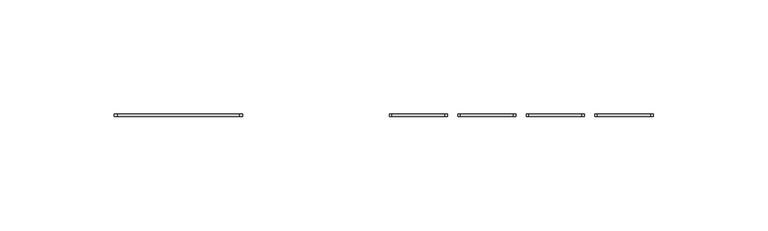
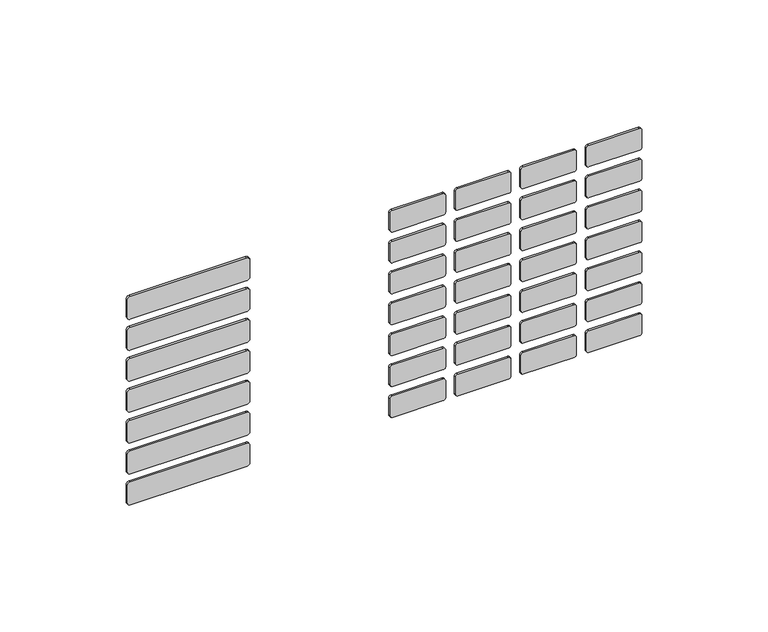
"""IFC4 building model written with IfcOpenShell, lengths in millimetres: alarm geometry, ППД 01_тип модель : ППД 01."""

from ifc_helpers import new_model, si_unit, point, frame, frame_2d, origin, place, context, project, spatial, polyline, circle_curve, trimmed, segment, composite_curve, outline, extrude, source, transform, mapped, element, save


def alarm_17b44d74(model_context):
    return source(origin(), model_context, "Body", "SweptSolid", [
        extrude(outline(composite_curve([segment(polyline([(-157.0058728, -61.8547243), (-148.667464, -61.8547243)]), True, "CONTINUOUS"), segment(trimmed(circle_curve(frame_2d((-148.7005577, -63.2194281)), 1.365105), [point((-148.667464, -61.8547243))], [point((-147.3366684, -63.2770283))], False, "CARTESIAN"), True, "CONTINUOUS"), segment(polyline([(-147.3366684, -63.2770283), (-147.3366684, -116.5477186)]), True, "CONTINUOUS"), segment(trimmed(circle_curve(frame_2d((-148.7005577, -116.6053188)), 1.365105), [point((-147.3366684, -116.5477186))], [point((-148.667464, -117.9700226))], False, "CARTESIAN"), True, "CONTINUOUS"), segment(polyline([(-148.667464, -117.9700226), (-157.0058728, -117.9700226)]), True, "CONTINUOUS"), segment(trimmed(circle_curve(frame_2d((-156.9247494, -116.5603792)), 1.4119758), [point((-157.0058728, -117.9700226))], [point((-158.3366684, -116.5477186))], False, "CARTESIAN"), True, "CONTINUOUS"), segment(polyline([(-158.3366684, -116.5477186), (-158.3366684, -63.2770283)]), True, "CONTINUOUS"), segment(trimmed(circle_curve(frame_2d((-156.9727791, -63.2194281)), 1.365105), [point((-158.3366684, -63.2770283))], [point((-157.0058728, -61.8547243))], False, "CARTESIAN"), True, "CONTINUOUS")], self_intersect=False)), frame((0.0, -37.0, 0.0), z_axis=(0.0, 1.0, 0.0), x_axis=(0.0, 0.0, 1.0)), (0.0, 0.0, 1.0), 1.0),
        extrude(outline(composite_curve([segment(polyline([(-157.0058728, 27.7612757), (-148.9222341, 27.7612757)]), True, "CONTINUOUS"), segment(trimmed(circle_curve(frame_2d((-148.8394707, 26.5586381)), 1.205482), [point((-148.9222341, 27.7612757))], [point((-147.6366684, 26.6389717))], False, "CARTESIAN"), True, "CONTINUOUS"), segment(polyline([(-147.6366684, 26.6389717), (-147.6366684, 3.4452053)]), True, "CONTINUOUS"), segment(trimmed(circle_curve(frame_2d((-148.8038777, 3.5226789)), 1.1697777), [point((-147.6366684, 3.4452053))], [point((-148.6641551, 2.3612757))], False, "CARTESIAN"), True, "CONTINUOUS"), segment(polyline([(-148.6641551, 2.3612757), (-157.0058728, 2.3612757)]), True, "CONTINUOUS"), segment(trimmed(circle_curve(frame_2d((-156.9015093, 3.4916561)), 1.1351879), [point((-157.0058728, 2.3612757))], [point((-158.0366684, 3.4835797))], False, "CARTESIAN"), True, "CONTINUOUS"), segment(polyline([(-158.0366684, 3.4835797), (-158.0366684, 26.77742)]), True, "CONTINUOUS"), segment(trimmed(circle_curve(frame_2d((-156.9272646, 26.6470018)), 1.1170432), [point((-158.0366684, 26.77742))], [point((-157.0058728, 27.7612757))], False, "CARTESIAN"), True, "CONTINUOUS")], self_intersect=False)), frame((0.0, -37.0, 0.0), z_axis=(0.0, 1.0, 0.0), x_axis=(0.0, 0.0, 1.0)), (0.0, 0.0, 1.0), 1.0),
        extrude(outline(composite_curve([segment(polyline([(-157.0058728, 57.7332757), (-148.9222341, 57.7332757)]), True, "CONTINUOUS"), segment(trimmed(circle_curve(frame_2d((-148.8394707, 56.5306381)), 1.205482), [point((-148.9222341, 57.7332757))], [point((-147.6366684, 56.6109717))], False, "CARTESIAN"), True, "CONTINUOUS"), segment(polyline([(-147.6366684, 56.6109717), (-147.6366684, 33.4172053)]), True, "CONTINUOUS"), segment(trimmed(circle_curve(frame_2d((-148.8038777, 33.4946789)), 1.1697777), [point((-147.6366684, 33.4172053))], [point((-148.6641551, 32.3332757))], False, "CARTESIAN"), True, "CONTINUOUS"), segment(polyline([(-148.6641551, 32.3332757), (-157.0058728, 32.3332757)]), True, "CONTINUOUS"), segment(trimmed(circle_curve(frame_2d((-156.9015093, 33.4636561)), 1.1351879), [point((-157.0058728, 32.3332757))], [point((-158.0366684, 33.4555797))], False, "CARTESIAN"), True, "CONTINUOUS"), segment(polyline([(-158.0366684, 33.4555797), (-158.0366684, 56.74942)]), True, "CONTINUOUS"), segment(trimmed(circle_curve(frame_2d((-156.9272646, 56.6190018)), 1.1170432), [point((-158.0366684, 56.74942))], [point((-157.0058728, 57.7332757))], False, "CARTESIAN"), True, "CONTINUOUS")], self_intersect=False)), frame((0.0, -37.0, 0.0), z_axis=(0.0, 1.0, 0.0), x_axis=(0.0, 0.0, 1.0)), (0.0, 0.0, 1.0), 1.0),
        extrude(outline(composite_curve([segment(polyline([(-157.0058728, 87.7052757), (-148.9222341, 87.7052757)]), True, "CONTINUOUS"), segment(trimmed(circle_curve(frame_2d((-148.8394707, 86.5026381)), 1.205482), [point((-148.9222341, 87.7052757))], [point((-147.6366684, 86.5829717))], False, "CARTESIAN"), True, "CONTINUOUS"), segment(polyline([(-147.6366684, 86.5829717), (-147.6366684, 63.3892053)]), True, "CONTINUOUS"), segment(trimmed(circle_curve(frame_2d((-148.8038777, 63.4666789)), 1.1697777), [point((-147.6366684, 63.3892053))], [point((-148.6641551, 62.3052757))], False, "CARTESIAN"), True, "CONTINUOUS"), segment(polyline([(-148.6641551, 62.3052757), (-157.0058728, 62.3052757)]), True, "CONTINUOUS"), segment(trimmed(circle_curve(frame_2d((-156.9015093, 63.4356561)), 1.1351879), [point((-157.0058728, 62.3052757))], [point((-158.0366684, 63.4275797))], False, "CARTESIAN"), True, "CONTINUOUS"), segment(polyline([(-158.0366684, 63.4275797), (-158.0366684, 86.72142)]), True, "CONTINUOUS"), segment(trimmed(circle_curve(frame_2d((-156.9272646, 86.5910018)), 1.1170432), [point((-158.0366684, 86.72142))], [point((-157.0058728, 87.7052757))], False, "CARTESIAN"), True, "CONTINUOUS")], self_intersect=False)), frame((0.0, -37.0, 0.0), z_axis=(0.0, 1.0, 0.0), x_axis=(0.0, 0.0, 1.0)), (0.0, 0.0, 1.0), 1.0),
        extrude(outline(composite_curve([segment(polyline([(-148.6646868, 92.3156501), (-157.0064045, 92.3156501)]), True, "CONTINUOUS"), segment(trimmed(circle_curve(frame_2d((-156.902041, 93.4460304)), 1.1351879), [point((-157.0064045, 92.3156501))], [point((-158.0372001, 93.4379541))], False, "CARTESIAN"), True, "CONTINUOUS"), segment(polyline([(-158.0372001, 93.4379541), (-158.0372001, 116.7317943)]), True, "CONTINUOUS"), segment(trimmed(circle_curve(frame_2d((-156.9277964, 116.6013762)), 1.1170432), [point((-158.0372001, 116.7317943))], [point((-157.0064045, 117.7156501))], False, "CARTESIAN"), True, "CONTINUOUS"), segment(polyline([(-157.0064045, 117.7156501), (-148.9227659, 117.7156501)]), True, "CONTINUOUS"), segment(trimmed(circle_curve(frame_2d((-148.8400025, 116.5130125)), 1.205482), [point((-148.9227659, 117.7156501))], [point((-147.6372001, 116.5933461))], False, "CARTESIAN"), True, "CONTINUOUS"), segment(polyline([(-147.6372001, 116.5933461), (-147.6372001, 93.3995797)]), True, "CONTINUOUS"), segment(trimmed(circle_curve(frame_2d((-148.8044095, 93.4770533)), 1.1697777), [point((-147.6372001, 93.3995797))], [point((-148.6646868, 92.3156501))], False, "CARTESIAN"), True, "CONTINUOUS")], self_intersect=False)), frame((0.0, -37.0, 0.0), z_axis=(0.0, 1.0, 0.0), x_axis=(0.0, 0.0, 1.0)), (0.0, 0.0, 1.0), 1.0),
        extrude(outline(composite_curve([segment(polyline([(-142.0198728, -61.8547243), (-133.681464, -61.8547243)]), True, "CONTINUOUS"), segment(trimmed(circle_curve(frame_2d((-133.7145577, -63.2194281)), 1.365105), [point((-133.681464, -61.8547243))], [point((-132.3506684, -63.2770283))], False, "CARTESIAN"), True, "CONTINUOUS"), segment(polyline([(-132.3506684, -63.2770283), (-132.3506684, -116.5477186)]), True, "CONTINUOUS"), segment(trimmed(circle_curve(frame_2d((-133.7145577, -116.6053188)), 1.365105), [point((-132.3506684, -116.5477186))], [point((-133.681464, -117.9700226))], False, "CARTESIAN"), True, "CONTINUOUS"), segment(polyline([(-133.681464, -117.9700226), (-142.0198728, -117.9700226)]), True, "CONTINUOUS"), segment(trimmed(circle_curve(frame_2d((-141.9387494, -116.5603792)), 1.4119758), [point((-142.0198728, -117.9700226))], [point((-143.3506684, -116.5477186))], False, "CARTESIAN"), True, "CONTINUOUS"), segment(polyline([(-143.3506684, -116.5477186), (-143.3506684, -63.2770283)]), True, "CONTINUOUS"), segment(trimmed(circle_curve(frame_2d((-141.9867791, -63.2194281)), 1.365105), [point((-143.3506684, -63.2770283))], [point((-142.0198728, -61.8547243))], False, "CARTESIAN"), True, "CONTINUOUS")], self_intersect=False)), frame((0.0, -37.0, 0.0), z_axis=(0.0, 1.0, 0.0), x_axis=(0.0, 0.0, 1.0)), (0.0, 0.0, 1.0), 1.0),
        extrude(outline(composite_curve([segment(polyline([(-142.0198728, 27.7612757), (-133.9362341, 27.7612757)]), True, "CONTINUOUS"), segment(trimmed(circle_curve(frame_2d((-133.8534707, 26.5586381)), 1.205482), [point((-133.9362341, 27.7612757))], [point((-132.6506684, 26.6389717))], False, "CARTESIAN"), True, "CONTINUOUS"), segment(polyline([(-132.6506684, 26.6389717), (-132.6506684, 3.4452053)]), True, "CONTINUOUS"), segment(trimmed(circle_curve(frame_2d((-133.8178777, 3.5226789)), 1.1697777), [point((-132.6506684, 3.4452053))], [point((-133.6781551, 2.3612757))], False, "CARTESIAN"), True, "CONTINUOUS"), segment(polyline([(-133.6781551, 2.3612757), (-142.0198728, 2.3612757)]), True, "CONTINUOUS"), segment(trimmed(circle_curve(frame_2d((-141.9155093, 3.4916561)), 1.1351879), [point((-142.0198728, 2.3612757))], [point((-143.0506684, 3.4835797))], False, "CARTESIAN"), True, "CONTINUOUS"), segment(polyline([(-143.0506684, 3.4835797), (-143.0506684, 26.77742)]), True, "CONTINUOUS"), segment(trimmed(circle_curve(frame_2d((-141.9412646, 26.6470018)), 1.1170432), [point((-143.0506684, 26.77742))], [point((-142.0198728, 27.7612757))], False, "CARTESIAN"), True, "CONTINUOUS")], self_intersect=False)), frame((0.0, -37.0, 0.0), z_axis=(0.0, 1.0, 0.0), x_axis=(0.0, 0.0, 1.0)), (0.0, 0.0, 1.0), 1.0),
        extrude(outline(composite_curve([segment(polyline([(-142.0198728, 57.7332757), (-133.9362341, 57.7332757)]), True, "CONTINUOUS"), segment(trimmed(circle_curve(frame_2d((-133.8534707, 56.5306381)), 1.205482), [point((-133.9362341, 57.7332757))], [point((-132.6506684, 56.6109717))], False, "CARTESIAN"), True, "CONTINUOUS"), segment(polyline([(-132.6506684, 56.6109717), (-132.6506684, 33.4172053)]), True, "CONTINUOUS"), segment(trimmed(circle_curve(frame_2d((-133.8178777, 33.4946789)), 1.1697777), [point((-132.6506684, 33.4172053))], [point((-133.6781551, 32.3332757))], False, "CARTESIAN"), True, "CONTINUOUS"), segment(polyline([(-133.6781551, 32.3332757), (-142.0198728, 32.3332757)]), True, "CONTINUOUS"), segment(trimmed(circle_curve(frame_2d((-141.9155093, 33.4636561)), 1.1351879), [point((-142.0198728, 32.3332757))], [point((-143.0506684, 33.4555797))], False, "CARTESIAN"), True, "CONTINUOUS"), segment(polyline([(-143.0506684, 33.4555797), (-143.0506684, 56.74942)]), True, "CONTINUOUS"), segment(trimmed(circle_curve(frame_2d((-141.9412646, 56.6190018)), 1.1170432), [point((-143.0506684, 56.74942))], [point((-142.0198728, 57.7332757))], False, "CARTESIAN"), True, "CONTINUOUS")], self_intersect=False)), frame((0.0, -37.0, 0.0), z_axis=(0.0, 1.0, 0.0), x_axis=(0.0, 0.0, 1.0)), (0.0, 0.0, 1.0), 1.0),
        extrude(outline(composite_curve([segment(polyline([(-142.0198728, 87.7052757), (-133.9362341, 87.7052757)]), True, "CONTINUOUS"), segment(trimmed(circle_curve(frame_2d((-133.8534707, 86.5026381)), 1.205482), [point((-133.9362341, 87.7052757))], [point((-132.6506684, 86.5829717))], False, "CARTESIAN"), True, "CONTINUOUS"), segment(polyline([(-132.6506684, 86.5829717), (-132.6506684, 63.3892053)]), True, "CONTINUOUS"), segment(trimmed(circle_curve(frame_2d((-133.8178777, 63.4666789)), 1.1697777), [point((-132.6506684, 63.3892053))], [point((-133.6781551, 62.3052757))], False, "CARTESIAN"), True, "CONTINUOUS"), segment(polyline([(-133.6781551, 62.3052757), (-142.0198728, 62.3052757)]), True, "CONTINUOUS"), segment(trimmed(circle_curve(frame_2d((-141.9155093, 63.4356561)), 1.1351879), [point((-142.0198728, 62.3052757))], [point((-143.0506684, 63.4275797))], False, "CARTESIAN"), True, "CONTINUOUS"), segment(polyline([(-143.0506684, 63.4275797), (-143.0506684, 86.72142)]), True, "CONTINUOUS"), segment(trimmed(circle_curve(frame_2d((-141.9412646, 86.5910018)), 1.1170432), [point((-143.0506684, 86.72142))], [point((-142.0198728, 87.7052757))], False, "CARTESIAN"), True, "CONTINUOUS")], self_intersect=False)), frame((0.0, -37.0, 0.0), z_axis=(0.0, 1.0, 0.0), x_axis=(0.0, 0.0, 1.0)), (0.0, 0.0, 1.0), 1.0),
        extrude(outline(composite_curve([segment(polyline([(-133.6786868, 92.3156501), (-142.0204045, 92.3156501)]), True, "CONTINUOUS"), segment(trimmed(circle_curve(frame_2d((-141.916041, 93.4460304)), 1.1351879), [point((-142.0204045, 92.3156501))], [point((-143.0512001, 93.4379541))], False, "CARTESIAN"), True, "CONTINUOUS"), segment(polyline([(-143.0512001, 93.4379541), (-143.0512001, 116.7317943)]), True, "CONTINUOUS"), segment(trimmed(circle_curve(frame_2d((-141.9417964, 116.6013762)), 1.1170432), [point((-143.0512001, 116.7317943))], [point((-142.0204045, 117.7156501))], False, "CARTESIAN"), True, "CONTINUOUS"), segment(polyline([(-142.0204045, 117.7156501), (-133.9367659, 117.7156501)]), True, "CONTINUOUS"), segment(trimmed(circle_curve(frame_2d((-133.8540025, 116.5130125)), 1.205482), [point((-133.9367659, 117.7156501))], [point((-132.6512001, 116.5933461))], False, "CARTESIAN"), True, "CONTINUOUS"), segment(polyline([(-132.6512001, 116.5933461), (-132.6512001, 93.3995797)]), True, "CONTINUOUS"), segment(trimmed(circle_curve(frame_2d((-133.8184095, 93.4770533)), 1.1697777), [point((-132.6512001, 93.3995797))], [point((-133.6786868, 92.3156501))], False, "CARTESIAN"), True, "CONTINUOUS")], self_intersect=False)), frame((0.0, -37.0, 0.0), z_axis=(0.0, 1.0, 0.0), x_axis=(0.0, 0.0, 1.0)), (0.0, 0.0, 1.0), 1.0),
        extrude(outline(composite_curve([segment(polyline([(-127.0338728, -61.8547243), (-118.695464, -61.8547243)]), True, "CONTINUOUS"), segment(trimmed(circle_curve(frame_2d((-118.7285577, -63.2194281)), 1.365105), [point((-118.695464, -61.8547243))], [point((-117.3646684, -63.2770283))], False, "CARTESIAN"), True, "CONTINUOUS"), segment(polyline([(-117.3646684, -63.2770283), (-117.3646684, -116.5477186)]), True, "CONTINUOUS"), segment(trimmed(circle_curve(frame_2d((-118.7285577, -116.6053188)), 1.365105), [point((-117.3646684, -116.5477186))], [point((-118.695464, -117.9700226))], False, "CARTESIAN"), True, "CONTINUOUS"), segment(polyline([(-118.695464, -117.9700226), (-127.0338728, -117.9700226)]), True, "CONTINUOUS"), segment(trimmed(circle_curve(frame_2d((-126.9527494, -116.5603792)), 1.4119758), [point((-127.0338728, -117.9700226))], [point((-128.3646684, -116.5477186))], False, "CARTESIAN"), True, "CONTINUOUS"), segment(polyline([(-128.3646684, -116.5477186), (-128.3646684, -63.2770283)]), True, "CONTINUOUS"), segment(trimmed(circle_curve(frame_2d((-127.0007791, -63.2194281)), 1.365105), [point((-128.3646684, -63.2770283))], [point((-127.0338728, -61.8547243))], False, "CARTESIAN"), True, "CONTINUOUS")], self_intersect=False)), frame((0.0, -37.0, 0.0), z_axis=(0.0, 1.0, 0.0), x_axis=(0.0, 0.0, 1.0)), (0.0, 0.0, 1.0), 1.0),
        extrude(outline(composite_curve([segment(polyline([(-127.0338728, 27.7612757), (-118.9502341, 27.7612757)]), True, "CONTINUOUS"), segment(trimmed(circle_curve(frame_2d((-118.8674707, 26.5586381)), 1.205482), [point((-118.9502341, 27.7612757))], [point((-117.6646684, 26.6389717))], False, "CARTESIAN"), True, "CONTINUOUS"), segment(polyline([(-117.6646684, 26.6389717), (-117.6646684, 3.4452053)]), True, "CONTINUOUS"), segment(trimmed(circle_curve(frame_2d((-118.8318777, 3.5226789)), 1.1697777), [point((-117.6646684, 3.4452053))], [point((-118.6921551, 2.3612757))], False, "CARTESIAN"), True, "CONTINUOUS"), segment(polyline([(-118.6921551, 2.3612757), (-127.0338728, 2.3612757)]), True, "CONTINUOUS"), segment(trimmed(circle_curve(frame_2d((-126.9295093, 3.4916561)), 1.1351879), [point((-127.0338728, 2.3612757))], [point((-128.0646684, 3.4835797))], False, "CARTESIAN"), True, "CONTINUOUS"), segment(polyline([(-128.0646684, 3.4835797), (-128.0646684, 26.77742)]), True, "CONTINUOUS"), segment(trimmed(circle_curve(frame_2d((-126.9552646, 26.6470018)), 1.1170432), [point((-128.0646684, 26.77742))], [point((-127.0338728, 27.7612757))], False, "CARTESIAN"), True, "CONTINUOUS")], self_intersect=False)), frame((0.0, -37.0, 0.0), z_axis=(0.0, 1.0, 0.0), x_axis=(0.0, 0.0, 1.0)), (0.0, 0.0, 1.0), 1.0),
        extrude(outline(composite_curve([segment(polyline([(-127.0338728, 57.7332757), (-118.9502341, 57.7332757)]), True, "CONTINUOUS"), segment(trimmed(circle_curve(frame_2d((-118.8674707, 56.5306381)), 1.205482), [point((-118.9502341, 57.7332757))], [point((-117.6646684, 56.6109717))], False, "CARTESIAN"), True, "CONTINUOUS"), segment(polyline([(-117.6646684, 56.6109717), (-117.6646684, 33.4172053)]), True, "CONTINUOUS"), segment(trimmed(circle_curve(frame_2d((-118.8318777, 33.4946789)), 1.1697777), [point((-117.6646684, 33.4172053))], [point((-118.6921551, 32.3332757))], False, "CARTESIAN"), True, "CONTINUOUS"), segment(polyline([(-118.6921551, 32.3332757), (-127.0338728, 32.3332757)]), True, "CONTINUOUS"), segment(trimmed(circle_curve(frame_2d((-126.9295093, 33.4636561)), 1.1351879), [point((-127.0338728, 32.3332757))], [point((-128.0646684, 33.4555797))], False, "CARTESIAN"), True, "CONTINUOUS"), segment(polyline([(-128.0646684, 33.4555797), (-128.0646684, 56.74942)]), True, "CONTINUOUS"), segment(trimmed(circle_curve(frame_2d((-126.9552646, 56.6190018)), 1.1170432), [point((-128.0646684, 56.74942))], [point((-127.0338728, 57.7332757))], False, "CARTESIAN"), True, "CONTINUOUS")], self_intersect=False)), frame((0.0, -37.0, 0.0), z_axis=(0.0, 1.0, 0.0), x_axis=(0.0, 0.0, 1.0)), (0.0, 0.0, 1.0), 1.0),
        extrude(outline(composite_curve([segment(polyline([(-127.0338728, 87.7052757), (-118.9502341, 87.7052757)]), True, "CONTINUOUS"), segment(trimmed(circle_curve(frame_2d((-118.8674707, 86.5026381)), 1.205482), [point((-118.9502341, 87.7052757))], [point((-117.6646684, 86.5829717))], False, "CARTESIAN"), True, "CONTINUOUS"), segment(polyline([(-117.6646684, 86.5829717), (-117.6646684, 63.3892053)]), True, "CONTINUOUS"), segment(trimmed(circle_curve(frame_2d((-118.8318777, 63.4666789)), 1.1697777), [point((-117.6646684, 63.3892053))], [point((-118.6921551, 62.3052757))], False, "CARTESIAN"), True, "CONTINUOUS"), segment(polyline([(-118.6921551, 62.3052757), (-127.0338728, 62.3052757)]), True, "CONTINUOUS"), segment(trimmed(circle_curve(frame_2d((-126.9295093, 63.4356561)), 1.1351879), [point((-127.0338728, 62.3052757))], [point((-128.0646684, 63.4275797))], False, "CARTESIAN"), True, "CONTINUOUS"), segment(polyline([(-128.0646684, 63.4275797), (-128.0646684, 86.72142)]), True, "CONTINUOUS"), segment(trimmed(circle_curve(frame_2d((-126.9552646, 86.5910018)), 1.1170432), [point((-128.0646684, 86.72142))], [point((-127.0338728, 87.7052757))], False, "CARTESIAN"), True, "CONTINUOUS")], self_intersect=False)), frame((0.0, -37.0, 0.0), z_axis=(0.0, 1.0, 0.0), x_axis=(0.0, 0.0, 1.0)), (0.0, 0.0, 1.0), 1.0),
        extrude(outline(composite_curve([segment(polyline([(-118.6926868, 92.3156501), (-127.0344045, 92.3156501)]), True, "CONTINUOUS"), segment(trimmed(circle_curve(frame_2d((-126.930041, 93.4460304)), 1.1351879), [point((-127.0344045, 92.3156501))], [point((-128.0652001, 93.4379541))], False, "CARTESIAN"), True, "CONTINUOUS"), segment(polyline([(-128.0652001, 93.4379541), (-128.0652001, 116.7317943)]), True, "CONTINUOUS"), segment(trimmed(circle_curve(frame_2d((-126.9557964, 116.6013762)), 1.1170432), [point((-128.0652001, 116.7317943))], [point((-127.0344045, 117.7156501))], False, "CARTESIAN"), True, "CONTINUOUS"), segment(polyline([(-127.0344045, 117.7156501), (-118.9507659, 117.7156501)]), True, "CONTINUOUS"), segment(trimmed(circle_curve(frame_2d((-118.8680025, 116.5130125)), 1.205482), [point((-118.9507659, 117.7156501))], [point((-117.6652001, 116.5933461))], False, "CARTESIAN"), True, "CONTINUOUS"), segment(polyline([(-117.6652001, 116.5933461), (-117.6652001, 93.3995797)]), True, "CONTINUOUS"), segment(trimmed(circle_curve(frame_2d((-118.8324095, 93.4770533)), 1.1697777), [point((-117.6652001, 93.3995797))], [point((-118.6926868, 92.3156501))], False, "CARTESIAN"), True, "CONTINUOUS")], self_intersect=False)), frame((0.0, -37.0, 0.0), z_axis=(0.0, 1.0, 0.0), x_axis=(0.0, 0.0, 1.0)), (0.0, 0.0, 1.0), 1.0),
        extrude(outline(composite_curve([segment(polyline([(-112.0478728, -61.8547243), (-103.709464, -61.8547243)]), True, "CONTINUOUS"), segment(trimmed(circle_curve(frame_2d((-103.7425577, -63.2194281)), 1.365105), [point((-103.709464, -61.8547243))], [point((-102.3786684, -63.2770283))], False, "CARTESIAN"), True, "CONTINUOUS"), segment(polyline([(-102.3786684, -63.2770283), (-102.3786684, -116.5477186)]), True, "CONTINUOUS"), segment(trimmed(circle_curve(frame_2d((-103.7425577, -116.6053188)), 1.365105), [point((-102.3786684, -116.5477186))], [point((-103.709464, -117.9700226))], False, "CARTESIAN"), True, "CONTINUOUS"), segment(polyline([(-103.709464, -117.9700226), (-112.0478728, -117.9700226)]), True, "CONTINUOUS"), segment(trimmed(circle_curve(frame_2d((-111.9667494, -116.5603792)), 1.4119758), [point((-112.0478728, -117.9700226))], [point((-113.3786684, -116.5477186))], False, "CARTESIAN"), True, "CONTINUOUS"), segment(polyline([(-113.3786684, -116.5477186), (-113.3786684, -63.2770283)]), True, "CONTINUOUS"), segment(trimmed(circle_curve(frame_2d((-112.0147791, -63.2194281)), 1.365105), [point((-113.3786684, -63.2770283))], [point((-112.0478728, -61.8547243))], False, "CARTESIAN"), True, "CONTINUOUS")], self_intersect=False)), frame((0.0, -37.0, 0.0), z_axis=(0.0, 1.0, 0.0), x_axis=(0.0, 0.0, 1.0)), (0.0, 0.0, 1.0), 1.0),
        extrude(outline(composite_curve([segment(polyline([(-112.0478728, 27.7612757), (-103.9642341, 27.7612757)]), True, "CONTINUOUS"), segment(trimmed(circle_curve(frame_2d((-103.8814707, 26.5586381)), 1.205482), [point((-103.9642341, 27.7612757))], [point((-102.6786684, 26.6389717))], False, "CARTESIAN"), True, "CONTINUOUS"), segment(polyline([(-102.6786684, 26.6389717), (-102.6786684, 3.4452053)]), True, "CONTINUOUS"), segment(trimmed(circle_curve(frame_2d((-103.8458777, 3.5226789)), 1.1697777), [point((-102.6786684, 3.4452053))], [point((-103.7061551, 2.3612757))], False, "CARTESIAN"), True, "CONTINUOUS"), segment(polyline([(-103.7061551, 2.3612757), (-112.0478728, 2.3612757)]), True, "CONTINUOUS"), segment(trimmed(circle_curve(frame_2d((-111.9435093, 3.4916561)), 1.1351879), [point((-112.0478728, 2.3612757))], [point((-113.0786684, 3.4835797))], False, "CARTESIAN"), True, "CONTINUOUS"), segment(polyline([(-113.0786684, 3.4835797), (-113.0786684, 26.77742)]), True, "CONTINUOUS"), segment(trimmed(circle_curve(frame_2d((-111.9692646, 26.6470018)), 1.1170432), [point((-113.0786684, 26.77742))], [point((-112.0478728, 27.7612757))], False, "CARTESIAN"), True, "CONTINUOUS")], self_intersect=False)), frame((0.0, -37.0, 0.0), z_axis=(0.0, 1.0, 0.0), x_axis=(0.0, 0.0, 1.0)), (0.0, 0.0, 1.0), 1.0),
        extrude(outline(composite_curve([segment(polyline([(-112.0478728, 57.7332757), (-103.9642341, 57.7332757)]), True, "CONTINUOUS"), segment(trimmed(circle_curve(frame_2d((-103.8814707, 56.5306381)), 1.205482), [point((-103.9642341, 57.7332757))], [point((-102.6786684, 56.6109717))], False, "CARTESIAN"), True, "CONTINUOUS"), segment(polyline([(-102.6786684, 56.6109717), (-102.6786684, 33.4172053)]), True, "CONTINUOUS"), segment(trimmed(circle_curve(frame_2d((-103.8458777, 33.4946789)), 1.1697777), [point((-102.6786684, 33.4172053))], [point((-103.7061551, 32.3332757))], False, "CARTESIAN"), True, "CONTINUOUS"), segment(polyline([(-103.7061551, 32.3332757), (-112.0478728, 32.3332757)]), True, "CONTINUOUS"), segment(trimmed(circle_curve(frame_2d((-111.9435093, 33.4636561)), 1.1351879), [point((-112.0478728, 32.3332757))], [point((-113.0786684, 33.4555797))], False, "CARTESIAN"), True, "CONTINUOUS"), segment(polyline([(-113.0786684, 33.4555797), (-113.0786684, 56.74942)]), True, "CONTINUOUS"), segment(trimmed(circle_curve(frame_2d((-111.9692646, 56.6190018)), 1.1170432), [point((-113.0786684, 56.74942))], [point((-112.0478728, 57.7332757))], False, "CARTESIAN"), True, "CONTINUOUS")], self_intersect=False)), frame((0.0, -37.0, 0.0), z_axis=(0.0, 1.0, 0.0), x_axis=(0.0, 0.0, 1.0)), (0.0, 0.0, 1.0), 1.0),
        extrude(outline(composite_curve([segment(polyline([(-112.0478728, 87.7052757), (-103.9642341, 87.7052757)]), True, "CONTINUOUS"), segment(trimmed(circle_curve(frame_2d((-103.8814707, 86.5026381)), 1.205482), [point((-103.9642341, 87.7052757))], [point((-102.6786684, 86.5829717))], False, "CARTESIAN"), True, "CONTINUOUS"), segment(polyline([(-102.6786684, 86.5829717), (-102.6786684, 63.3892053)]), True, "CONTINUOUS"), segment(trimmed(circle_curve(frame_2d((-103.8458777, 63.4666789)), 1.1697777), [point((-102.6786684, 63.3892053))], [point((-103.7061551, 62.3052757))], False, "CARTESIAN"), True, "CONTINUOUS"), segment(polyline([(-103.7061551, 62.3052757), (-112.0478728, 62.3052757)]), True, "CONTINUOUS"), segment(trimmed(circle_curve(frame_2d((-111.9435093, 63.4356561)), 1.1351879), [point((-112.0478728, 62.3052757))], [point((-113.0786684, 63.4275797))], False, "CARTESIAN"), True, "CONTINUOUS"), segment(polyline([(-113.0786684, 63.4275797), (-113.0786684, 86.72142)]), True, "CONTINUOUS"), segment(trimmed(circle_curve(frame_2d((-111.9692646, 86.5910018)), 1.1170432), [point((-113.0786684, 86.72142))], [point((-112.0478728, 87.7052757))], False, "CARTESIAN"), True, "CONTINUOUS")], self_intersect=False)), frame((0.0, -37.0, 0.0), z_axis=(0.0, 1.0, 0.0), x_axis=(0.0, 0.0, 1.0)), (0.0, 0.0, 1.0), 1.0),
        extrude(outline(composite_curve([segment(polyline([(-103.7066868, 92.3156501), (-112.0484045, 92.3156501)]), True, "CONTINUOUS"), segment(trimmed(circle_curve(frame_2d((-111.944041, 93.4460304)), 1.1351879), [point((-112.0484045, 92.3156501))], [point((-113.0792001, 93.4379541))], False, "CARTESIAN"), True, "CONTINUOUS"), segment(polyline([(-113.0792001, 93.4379541), (-113.0792001, 116.7317943)]), True, "CONTINUOUS"), segment(trimmed(circle_curve(frame_2d((-111.9697964, 116.6013762)), 1.1170432), [point((-113.0792001, 116.7317943))], [point((-112.0484045, 117.7156501))], False, "CARTESIAN"), True, "CONTINUOUS"), segment(polyline([(-112.0484045, 117.7156501), (-103.9647659, 117.7156501)]), True, "CONTINUOUS"), segment(trimmed(circle_curve(frame_2d((-103.8820025, 116.5130125)), 1.205482), [point((-103.9647659, 117.7156501))], [point((-102.6792001, 116.5933461))], False, "CARTESIAN"), True, "CONTINUOUS"), segment(polyline([(-102.6792001, 116.5933461), (-102.6792001, 93.3995797)]), True, "CONTINUOUS"), segment(trimmed(circle_curve(frame_2d((-103.8464095, 93.4770533)), 1.1697777), [point((-102.6792001, 93.3995797))], [point((-103.7066868, 92.3156501))], False, "CARTESIAN"), True, "CONTINUOUS")], self_intersect=False)), frame((0.0, -37.0, 0.0), z_axis=(0.0, 1.0, 0.0), x_axis=(0.0, 0.0, 1.0)), (0.0, 0.0, 1.0), 1.0),
        extrude(outline(composite_curve([segment(polyline([(-97.0618728, -61.8547243), (-88.723464, -61.8547243)]), True, "CONTINUOUS"), segment(trimmed(circle_curve(frame_2d((-88.7565577, -63.2194281)), 1.365105), [point((-88.723464, -61.8547243))], [point((-87.3926684, -63.2770283))], False, "CARTESIAN"), True, "CONTINUOUS"), segment(polyline([(-87.3926684, -63.2770283), (-87.3926684, -116.5477186)]), True, "CONTINUOUS"), segment(trimmed(circle_curve(frame_2d((-88.7565577, -116.6053188)), 1.365105), [point((-87.3926684, -116.5477186))], [point((-88.723464, -117.9700226))], False, "CARTESIAN"), True, "CONTINUOUS"), segment(polyline([(-88.723464, -117.9700226), (-97.0618728, -117.9700226)]), True, "CONTINUOUS"), segment(trimmed(circle_curve(frame_2d((-96.9807494, -116.5603792)), 1.4119758), [point((-97.0618728, -117.9700226))], [point((-98.3926684, -116.5477186))], False, "CARTESIAN"), True, "CONTINUOUS"), segment(polyline([(-98.3926684, -116.5477186), (-98.3926684, -63.2770283)]), True, "CONTINUOUS"), segment(trimmed(circle_curve(frame_2d((-97.0287791, -63.2194281)), 1.365105), [point((-98.3926684, -63.2770283))], [point((-97.0618728, -61.8547243))], False, "CARTESIAN"), True, "CONTINUOUS")], self_intersect=False)), frame((0.0, -37.0, 0.0), z_axis=(0.0, 1.0, 0.0), x_axis=(0.0, 0.0, 1.0)), (0.0, 0.0, 1.0), 1.0),
        extrude(outline(composite_curve([segment(polyline([(-97.0618728, 27.7612757), (-88.9782341, 27.7612757)]), True, "CONTINUOUS"), segment(trimmed(circle_curve(frame_2d((-88.8954707, 26.5586381)), 1.205482), [point((-88.9782341, 27.7612757))], [point((-87.6926684, 26.6389717))], False, "CARTESIAN"), True, "CONTINUOUS"), segment(polyline([(-87.6926684, 26.6389717), (-87.6926684, 3.4452053)]), True, "CONTINUOUS"), segment(trimmed(circle_curve(frame_2d((-88.8598777, 3.5226789)), 1.1697777), [point((-87.6926684, 3.4452053))], [point((-88.7201551, 2.3612757))], False, "CARTESIAN"), True, "CONTINUOUS"), segment(polyline([(-88.7201551, 2.3612757), (-97.0618728, 2.3612757)]), True, "CONTINUOUS"), segment(trimmed(circle_curve(frame_2d((-96.9575093, 3.4916561)), 1.1351879), [point((-97.0618728, 2.3612757))], [point((-98.0926684, 3.4835797))], False, "CARTESIAN"), True, "CONTINUOUS"), segment(polyline([(-98.0926684, 3.4835797), (-98.0926684, 26.77742)]), True, "CONTINUOUS"), segment(trimmed(circle_curve(frame_2d((-96.9832646, 26.6470018)), 1.1170432), [point((-98.0926684, 26.77742))], [point((-97.0618728, 27.7612757))], False, "CARTESIAN"), True, "CONTINUOUS")], self_intersect=False)), frame((0.0, -37.0, 0.0), z_axis=(0.0, 1.0, 0.0), x_axis=(0.0, 0.0, 1.0)), (0.0, 0.0, 1.0), 1.0),
        extrude(outline(composite_curve([segment(polyline([(-97.0618728, 57.7332757), (-88.9782341, 57.7332757)]), True, "CONTINUOUS"), segment(trimmed(circle_curve(frame_2d((-88.8954707, 56.5306381)), 1.205482), [point((-88.9782341, 57.7332757))], [point((-87.6926684, 56.6109717))], False, "CARTESIAN"), True, "CONTINUOUS"), segment(polyline([(-87.6926684, 56.6109717), (-87.6926684, 33.4172053)]), True, "CONTINUOUS"), segment(trimmed(circle_curve(frame_2d((-88.8598777, 33.4946789)), 1.1697777), [point((-87.6926684, 33.4172053))], [point((-88.7201551, 32.3332757))], False, "CARTESIAN"), True, "CONTINUOUS"), segment(polyline([(-88.7201551, 32.3332757), (-97.0618728, 32.3332757)]), True, "CONTINUOUS"), segment(trimmed(circle_curve(frame_2d((-96.9575093, 33.4636561)), 1.1351879), [point((-97.0618728, 32.3332757))], [point((-98.0926684, 33.4555797))], False, "CARTESIAN"), True, "CONTINUOUS"), segment(polyline([(-98.0926684, 33.4555797), (-98.0926684, 56.74942)]), True, "CONTINUOUS"), segment(trimmed(circle_curve(frame_2d((-96.9832646, 56.6190018)), 1.1170432), [point((-98.0926684, 56.74942))], [point((-97.0618728, 57.7332757))], False, "CARTESIAN"), True, "CONTINUOUS")], self_intersect=False)), frame((0.0, -37.0, 0.0), z_axis=(0.0, 1.0, 0.0), x_axis=(0.0, 0.0, 1.0)), (0.0, 0.0, 1.0), 1.0),
        extrude(outline(composite_curve([segment(polyline([(-97.0618728, 87.7052757), (-88.9782341, 87.7052757)]), True, "CONTINUOUS"), segment(trimmed(circle_curve(frame_2d((-88.8954707, 86.5026381)), 1.205482), [point((-88.9782341, 87.7052757))], [point((-87.6926684, 86.5829717))], False, "CARTESIAN"), True, "CONTINUOUS"), segment(polyline([(-87.6926684, 86.5829717), (-87.6926684, 63.3892053)]), True, "CONTINUOUS"), segment(trimmed(circle_curve(frame_2d((-88.8598777, 63.4666789)), 1.1697777), [point((-87.6926684, 63.3892053))], [point((-88.7201551, 62.3052757))], False, "CARTESIAN"), True, "CONTINUOUS"), segment(polyline([(-88.7201551, 62.3052757), (-97.0618728, 62.3052757)]), True, "CONTINUOUS"), segment(trimmed(circle_curve(frame_2d((-96.9575093, 63.4356561)), 1.1351879), [point((-97.0618728, 62.3052757))], [point((-98.0926684, 63.4275797))], False, "CARTESIAN"), True, "CONTINUOUS"), segment(polyline([(-98.0926684, 63.4275797), (-98.0926684, 86.72142)]), True, "CONTINUOUS"), segment(trimmed(circle_curve(frame_2d((-96.9832646, 86.5910018)), 1.1170432), [point((-98.0926684, 86.72142))], [point((-97.0618728, 87.7052757))], False, "CARTESIAN"), True, "CONTINUOUS")], self_intersect=False)), frame((0.0, -37.0, 0.0), z_axis=(0.0, 1.0, 0.0), x_axis=(0.0, 0.0, 1.0)), (0.0, 0.0, 1.0), 1.0),
        extrude(outline(composite_curve([segment(polyline([(-88.7206868, 92.3156501), (-97.0624045, 92.3156501)]), True, "CONTINUOUS"), segment(trimmed(circle_curve(frame_2d((-96.958041, 93.4460304)), 1.1351879), [point((-97.0624045, 92.3156501))], [point((-98.0932001, 93.4379541))], False, "CARTESIAN"), True, "CONTINUOUS"), segment(polyline([(-98.0932001, 93.4379541), (-98.0932001, 116.7317943)]), True, "CONTINUOUS"), segment(trimmed(circle_curve(frame_2d((-96.9837964, 116.6013762)), 1.1170432), [point((-98.0932001, 116.7317943))], [point((-97.0624045, 117.7156501))], False, "CARTESIAN"), True, "CONTINUOUS"), segment(polyline([(-97.0624045, 117.7156501), (-88.9787659, 117.7156501)]), True, "CONTINUOUS"), segment(trimmed(circle_curve(frame_2d((-88.8960025, 116.5130125)), 1.205482), [point((-88.9787659, 117.7156501))], [point((-87.6932001, 116.5933461))], False, "CARTESIAN"), True, "CONTINUOUS"), segment(polyline([(-87.6932001, 116.5933461), (-87.6932001, 93.3995797)]), True, "CONTINUOUS"), segment(trimmed(circle_curve(frame_2d((-88.8604095, 93.4770533)), 1.1697777), [point((-87.6932001, 93.3995797))], [point((-88.7206868, 92.3156501))], False, "CARTESIAN"), True, "CONTINUOUS")], self_intersect=False)), frame((0.0, -37.0, 0.0), z_axis=(0.0, 1.0, 0.0), x_axis=(0.0, 0.0, 1.0)), (0.0, 0.0, 1.0), 1.0),
        extrude(outline(composite_curve([segment(polyline([(-82.0758728, -61.8547243), (-73.737464, -61.8547243)]), True, "CONTINUOUS"), segment(trimmed(circle_curve(frame_2d((-73.7705577, -63.2194281)), 1.365105), [point((-73.737464, -61.8547243))], [point((-72.4066684, -63.2770283))], False, "CARTESIAN"), True, "CONTINUOUS"), segment(polyline([(-72.4066684, -63.2770283), (-72.4066684, -116.5477186)]), True, "CONTINUOUS"), segment(trimmed(circle_curve(frame_2d((-73.7705577, -116.6053188)), 1.365105), [point((-72.4066684, -116.5477186))], [point((-73.737464, -117.9700226))], False, "CARTESIAN"), True, "CONTINUOUS"), segment(polyline([(-73.737464, -117.9700226), (-82.0758728, -117.9700226)]), True, "CONTINUOUS"), segment(trimmed(circle_curve(frame_2d((-81.9947494, -116.5603792)), 1.4119758), [point((-82.0758728, -117.9700226))], [point((-83.4066684, -116.5477186))], False, "CARTESIAN"), True, "CONTINUOUS"), segment(polyline([(-83.4066684, -116.5477186), (-83.4066684, -63.2770283)]), True, "CONTINUOUS"), segment(trimmed(circle_curve(frame_2d((-82.0427791, -63.2194281)), 1.365105), [point((-83.4066684, -63.2770283))], [point((-82.0758728, -61.8547243))], False, "CARTESIAN"), True, "CONTINUOUS")], self_intersect=False)), frame((0.0, -37.0, 0.0), z_axis=(0.0, 1.0, 0.0), x_axis=(0.0, 0.0, 1.0)), (0.0, 0.0, 1.0), 1.0),
        extrude(outline(composite_curve([segment(polyline([(-82.0758728, 27.7612757), (-73.9922341, 27.7612757)]), True, "CONTINUOUS"), segment(trimmed(circle_curve(frame_2d((-73.9094707, 26.5586381)), 1.205482), [point((-73.9922341, 27.7612757))], [point((-72.7066684, 26.6389717))], False, "CARTESIAN"), True, "CONTINUOUS"), segment(polyline([(-72.7066684, 26.6389717), (-72.7066684, 3.4452053)]), True, "CONTINUOUS"), segment(trimmed(circle_curve(frame_2d((-73.8738777, 3.5226789)), 1.1697777), [point((-72.7066684, 3.4452053))], [point((-73.7341551, 2.3612757))], False, "CARTESIAN"), True, "CONTINUOUS"), segment(polyline([(-73.7341551, 2.3612757), (-82.0758728, 2.3612757)]), True, "CONTINUOUS"), segment(trimmed(circle_curve(frame_2d((-81.9715093, 3.4916561)), 1.1351879), [point((-82.0758728, 2.3612757))], [point((-83.1066684, 3.4835797))], False, "CARTESIAN"), True, "CONTINUOUS"), segment(polyline([(-83.1066684, 3.4835797), (-83.1066684, 26.77742)]), True, "CONTINUOUS"), segment(trimmed(circle_curve(frame_2d((-81.9972646, 26.6470018)), 1.1170432), [point((-83.1066684, 26.77742))], [point((-82.0758728, 27.7612757))], False, "CARTESIAN"), True, "CONTINUOUS")], self_intersect=False)), frame((0.0, -37.0, 0.0), z_axis=(0.0, 1.0, 0.0), x_axis=(0.0, 0.0, 1.0)), (0.0, 0.0, 1.0), 1.0),
        extrude(outline(composite_curve([segment(polyline([(-82.0758728, 57.7332757), (-73.9922341, 57.7332757)]), True, "CONTINUOUS"), segment(trimmed(circle_curve(frame_2d((-73.9094707, 56.5306381)), 1.205482), [point((-73.9922341, 57.7332757))], [point((-72.7066684, 56.6109717))], False, "CARTESIAN"), True, "CONTINUOUS"), segment(polyline([(-72.7066684, 56.6109717), (-72.7066684, 33.4172053)]), True, "CONTINUOUS"), segment(trimmed(circle_curve(frame_2d((-73.8738777, 33.4946789)), 1.1697777), [point((-72.7066684, 33.4172053))], [point((-73.7341551, 32.3332757))], False, "CARTESIAN"), True, "CONTINUOUS"), segment(polyline([(-73.7341551, 32.3332757), (-82.0758728, 32.3332757)]), True, "CONTINUOUS"), segment(trimmed(circle_curve(frame_2d((-81.9715093, 33.4636561)), 1.1351879), [point((-82.0758728, 32.3332757))], [point((-83.1066684, 33.4555797))], False, "CARTESIAN"), True, "CONTINUOUS"), segment(polyline([(-83.1066684, 33.4555797), (-83.1066684, 56.74942)]), True, "CONTINUOUS"), segment(trimmed(circle_curve(frame_2d((-81.9972646, 56.6190018)), 1.1170432), [point((-83.1066684, 56.74942))], [point((-82.0758728, 57.7332757))], False, "CARTESIAN"), True, "CONTINUOUS")], self_intersect=False)), frame((0.0, -37.0, 0.0), z_axis=(0.0, 1.0, 0.0), x_axis=(0.0, 0.0, 1.0)), (0.0, 0.0, 1.0), 1.0),
        extrude(outline(composite_curve([segment(polyline([(-82.0758728, 87.7052757), (-73.9922341, 87.7052757)]), True, "CONTINUOUS"), segment(trimmed(circle_curve(frame_2d((-73.9094707, 86.5026381)), 1.205482), [point((-73.9922341, 87.7052757))], [point((-72.7066684, 86.5829717))], False, "CARTESIAN"), True, "CONTINUOUS"), segment(polyline([(-72.7066684, 86.5829717), (-72.7066684, 63.3892053)]), True, "CONTINUOUS"), segment(trimmed(circle_curve(frame_2d((-73.8738777, 63.4666789)), 1.1697777), [point((-72.7066684, 63.3892053))], [point((-73.7341551, 62.3052757))], False, "CARTESIAN"), True, "CONTINUOUS"), segment(polyline([(-73.7341551, 62.3052757), (-82.0758728, 62.3052757)]), True, "CONTINUOUS"), segment(trimmed(circle_curve(frame_2d((-81.9715093, 63.4356561)), 1.1351879), [point((-82.0758728, 62.3052757))], [point((-83.1066684, 63.4275797))], False, "CARTESIAN"), True, "CONTINUOUS"), segment(polyline([(-83.1066684, 63.4275797), (-83.1066684, 86.72142)]), True, "CONTINUOUS"), segment(trimmed(circle_curve(frame_2d((-81.9972646, 86.5910018)), 1.1170432), [point((-83.1066684, 86.72142))], [point((-82.0758728, 87.7052757))], False, "CARTESIAN"), True, "CONTINUOUS")], self_intersect=False)), frame((0.0, -37.0, 0.0), z_axis=(0.0, 1.0, 0.0), x_axis=(0.0, 0.0, 1.0)), (0.0, 0.0, 1.0), 1.0),
        extrude(outline(composite_curve([segment(polyline([(-73.7346868, 92.3156501), (-82.0764045, 92.3156501)]), True, "CONTINUOUS"), segment(trimmed(circle_curve(frame_2d((-81.972041, 93.4460304)), 1.1351879), [point((-82.0764045, 92.3156501))], [point((-83.1072001, 93.4379541))], False, "CARTESIAN"), True, "CONTINUOUS"), segment(polyline([(-83.1072001, 93.4379541), (-83.1072001, 116.7317943)]), True, "CONTINUOUS"), segment(trimmed(circle_curve(frame_2d((-81.9977964, 116.6013762)), 1.1170432), [point((-83.1072001, 116.7317943))], [point((-82.0764045, 117.7156501))], False, "CARTESIAN"), True, "CONTINUOUS"), segment(polyline([(-82.0764045, 117.7156501), (-73.9927659, 117.7156501)]), True, "CONTINUOUS"), segment(trimmed(circle_curve(frame_2d((-73.9100025, 116.5130125)), 1.205482), [point((-73.9927659, 117.7156501))], [point((-72.7072001, 116.5933461))], False, "CARTESIAN"), True, "CONTINUOUS"), segment(polyline([(-72.7072001, 116.5933461), (-72.7072001, 93.3995797)]), True, "CONTINUOUS"), segment(trimmed(circle_curve(frame_2d((-73.8744095, 93.4770533)), 1.1697777), [point((-72.7072001, 93.3995797))], [point((-73.7346868, 92.3156501))], False, "CARTESIAN"), True, "CONTINUOUS")], self_intersect=False)), frame((0.0, -37.0, 0.0), z_axis=(0.0, 1.0, 0.0), x_axis=(0.0, 0.0, 1.0)), (0.0, 0.0, 1.0), 1.0),
        extrude(outline(composite_curve([segment(polyline([(-67.0898728, -61.8547243), (-58.751464, -61.8547243)]), True, "CONTINUOUS"), segment(trimmed(circle_curve(frame_2d((-58.7845577, -63.2194281)), 1.365105), [point((-58.751464, -61.8547243))], [point((-57.4206684, -63.2770283))], False, "CARTESIAN"), True, "CONTINUOUS"), segment(polyline([(-57.4206684, -63.2770283), (-57.4206684, -116.5477186)]), True, "CONTINUOUS"), segment(trimmed(circle_curve(frame_2d((-58.7845577, -116.6053188)), 1.365105), [point((-57.4206684, -116.5477186))], [point((-58.751464, -117.9700226))], False, "CARTESIAN"), True, "CONTINUOUS"), segment(polyline([(-58.751464, -117.9700226), (-67.0898728, -117.9700226)]), True, "CONTINUOUS"), segment(trimmed(circle_curve(frame_2d((-67.0087494, -116.5603792)), 1.4119758), [point((-67.0898728, -117.9700226))], [point((-68.4206684, -116.5477186))], False, "CARTESIAN"), True, "CONTINUOUS"), segment(polyline([(-68.4206684, -116.5477186), (-68.4206684, -63.2770283)]), True, "CONTINUOUS"), segment(trimmed(circle_curve(frame_2d((-67.0567791, -63.2194281)), 1.365105), [point((-68.4206684, -63.2770283))], [point((-67.0898728, -61.8547243))], False, "CARTESIAN"), True, "CONTINUOUS")], self_intersect=False)), frame((0.0, -37.0, 0.0), z_axis=(0.0, 1.0, 0.0), x_axis=(0.0, 0.0, 1.0)), (0.0, 0.0, 1.0), 1.0),
        extrude(outline(composite_curve([segment(polyline([(-67.0898728, 27.7612757), (-59.0062341, 27.7612757)]), True, "CONTINUOUS"), segment(trimmed(circle_curve(frame_2d((-58.9234707, 26.5586381)), 1.205482), [point((-59.0062341, 27.7612757))], [point((-57.7206684, 26.6389717))], False, "CARTESIAN"), True, "CONTINUOUS"), segment(polyline([(-57.7206684, 26.6389717), (-57.7206684, 3.4452053)]), True, "CONTINUOUS"), segment(trimmed(circle_curve(frame_2d((-58.8878777, 3.5226789)), 1.1697777), [point((-57.7206684, 3.4452053))], [point((-58.7481551, 2.3612757))], False, "CARTESIAN"), True, "CONTINUOUS"), segment(polyline([(-58.7481551, 2.3612757), (-67.0898728, 2.3612757)]), True, "CONTINUOUS"), segment(trimmed(circle_curve(frame_2d((-66.9855093, 3.4916561)), 1.1351879), [point((-67.0898728, 2.3612757))], [point((-68.1206684, 3.4835797))], False, "CARTESIAN"), True, "CONTINUOUS"), segment(polyline([(-68.1206684, 3.4835797), (-68.1206684, 26.77742)]), True, "CONTINUOUS"), segment(trimmed(circle_curve(frame_2d((-67.0112646, 26.6470018)), 1.1170432), [point((-68.1206684, 26.77742))], [point((-67.0898728, 27.7612757))], False, "CARTESIAN"), True, "CONTINUOUS")], self_intersect=False)), frame((0.0, -37.0, 0.0), z_axis=(0.0, 1.0, 0.0), x_axis=(0.0, 0.0, 1.0)), (0.0, 0.0, 1.0), 1.0),
        extrude(outline(composite_curve([segment(polyline([(-67.0898728, 57.7332757), (-59.0062341, 57.7332757)]), True, "CONTINUOUS"), segment(trimmed(circle_curve(frame_2d((-58.9234707, 56.5306381)), 1.205482), [point((-59.0062341, 57.7332757))], [point((-57.7206684, 56.6109717))], False, "CARTESIAN"), True, "CONTINUOUS"), segment(polyline([(-57.7206684, 56.6109717), (-57.7206684, 33.4172053)]), True, "CONTINUOUS"), segment(trimmed(circle_curve(frame_2d((-58.8878777, 33.4946789)), 1.1697777), [point((-57.7206684, 33.4172053))], [point((-58.7481551, 32.3332757))], False, "CARTESIAN"), True, "CONTINUOUS"), segment(polyline([(-58.7481551, 32.3332757), (-67.0898728, 32.3332757)]), True, "CONTINUOUS"), segment(trimmed(circle_curve(frame_2d((-66.9855093, 33.4636561)), 1.1351879), [point((-67.0898728, 32.3332757))], [point((-68.1206684, 33.4555797))], False, "CARTESIAN"), True, "CONTINUOUS"), segment(polyline([(-68.1206684, 33.4555797), (-68.1206684, 56.74942)]), True, "CONTINUOUS"), segment(trimmed(circle_curve(frame_2d((-67.0112646, 56.6190018)), 1.1170432), [point((-68.1206684, 56.74942))], [point((-67.0898728, 57.7332757))], False, "CARTESIAN"), True, "CONTINUOUS")], self_intersect=False)), frame((0.0, -37.0, 0.0), z_axis=(0.0, 1.0, 0.0), x_axis=(0.0, 0.0, 1.0)), (0.0, 0.0, 1.0), 1.0),
        extrude(outline(composite_curve([segment(polyline([(-67.0898728, 87.7052757), (-59.0062341, 87.7052757)]), True, "CONTINUOUS"), segment(trimmed(circle_curve(frame_2d((-58.9234707, 86.5026381)), 1.205482), [point((-59.0062341, 87.7052757))], [point((-57.7206684, 86.5829717))], False, "CARTESIAN"), True, "CONTINUOUS"), segment(polyline([(-57.7206684, 86.5829717), (-57.7206684, 63.3892053)]), True, "CONTINUOUS"), segment(trimmed(circle_curve(frame_2d((-58.8878777, 63.4666789)), 1.1697777), [point((-57.7206684, 63.3892053))], [point((-58.7481551, 62.3052757))], False, "CARTESIAN"), True, "CONTINUOUS"), segment(polyline([(-58.7481551, 62.3052757), (-67.0898728, 62.3052757)]), True, "CONTINUOUS"), segment(trimmed(circle_curve(frame_2d((-66.9855093, 63.4356561)), 1.1351879), [point((-67.0898728, 62.3052757))], [point((-68.1206684, 63.4275797))], False, "CARTESIAN"), True, "CONTINUOUS"), segment(polyline([(-68.1206684, 63.4275797), (-68.1206684, 86.72142)]), True, "CONTINUOUS"), segment(trimmed(circle_curve(frame_2d((-67.0112646, 86.5910018)), 1.1170432), [point((-68.1206684, 86.72142))], [point((-67.0898728, 87.7052757))], False, "CARTESIAN"), True, "CONTINUOUS")], self_intersect=False)), frame((0.0, -37.0, 0.0), z_axis=(0.0, 1.0, 0.0), x_axis=(0.0, 0.0, 1.0)), (0.0, 0.0, 1.0), 1.0),
        extrude(outline(composite_curve([segment(polyline([(-58.7486868, 92.3156501), (-67.0904045, 92.3156501)]), True, "CONTINUOUS"), segment(trimmed(circle_curve(frame_2d((-66.986041, 93.4460304)), 1.1351879), [point((-67.0904045, 92.3156501))], [point((-68.1212001, 93.4379541))], False, "CARTESIAN"), True, "CONTINUOUS"), segment(polyline([(-68.1212001, 93.4379541), (-68.1212001, 116.7317943)]), True, "CONTINUOUS"), segment(trimmed(circle_curve(frame_2d((-67.0117964, 116.6013762)), 1.1170432), [point((-68.1212001, 116.7317943))], [point((-67.0904045, 117.7156501))], False, "CARTESIAN"), True, "CONTINUOUS"), segment(polyline([(-67.0904045, 117.7156501), (-59.0067659, 117.7156501)]), True, "CONTINUOUS"), segment(trimmed(circle_curve(frame_2d((-58.9240025, 116.5130125)), 1.205482), [point((-59.0067659, 117.7156501))], [point((-57.7212001, 116.5933461))], False, "CARTESIAN"), True, "CONTINUOUS"), segment(polyline([(-57.7212001, 116.5933461), (-57.7212001, 93.3995797)]), True, "CONTINUOUS"), segment(trimmed(circle_curve(frame_2d((-58.8884095, 93.4770533)), 1.1697777), [point((-57.7212001, 93.3995797))], [point((-58.7486868, 92.3156501))], False, "CARTESIAN"), True, "CONTINUOUS")], self_intersect=False)), frame((0.0, -37.0, 0.0), z_axis=(0.0, 1.0, 0.0), x_axis=(0.0, 0.0, 1.0)), (0.0, 0.0, 1.0), 1.0),
    ])


if __name__ == "__main__":
    model = new_model("IFC4")
    model_context = context("Model", 3, world=origin())
    ifc_project = project(units=[si_unit("LENGTHUNIT", "METRE", prefix="MILLI")], contexts=[model_context])
    site = spatial("IfcSite", under=ifc_project)
    building = spatial("IfcBuilding", under=site)
    placement = place(None, origin())
    alarm_shape = alarm_17b44d74(model_context)
    element("IfcAlarm", 1, ObjectType="ППД 01_тип модель : ППД 01", at=placement, inside=building, context=model_context, shape_type="MappedRepresentation", body=[
        mapped(alarm_shape, transform((0.0, 0.0, 0.0), x_axis=(1.0, 0.0, 0.0), y_axis=(0.0, 1.0, 0.0), z_axis=(0.0, 0.0, 1.0))),
    ])
    save(model, "model.ifc")
